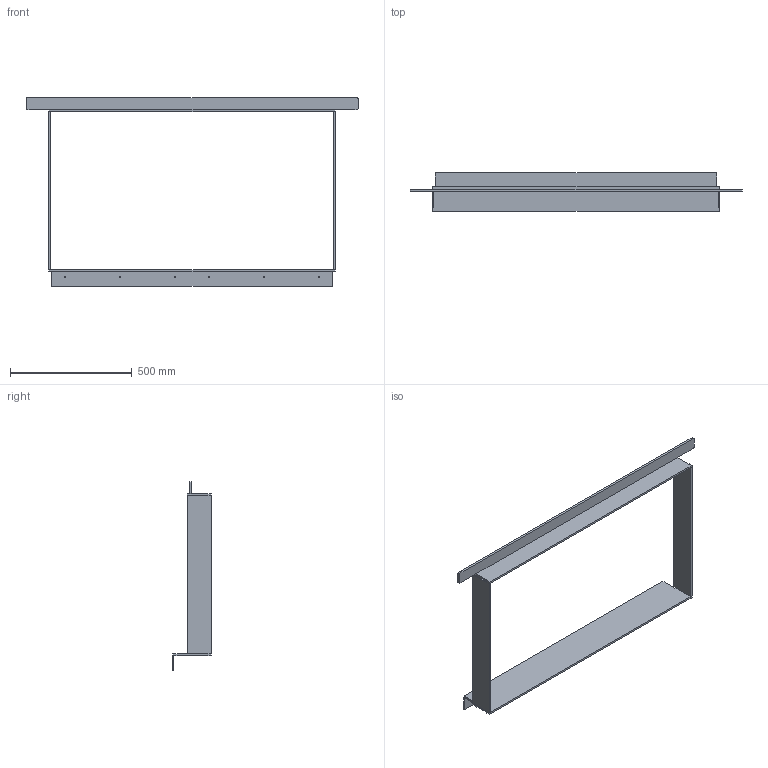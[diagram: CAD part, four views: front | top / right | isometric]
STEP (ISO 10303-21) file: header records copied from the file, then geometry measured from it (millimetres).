
FILE_DESCRIPTION(/* description */ (''),/* implementation_level */ '2;1');
FILE_NAME(/* name */ 'C:\ADSK_DM_WS\CAD_3D\03 Geraete\Violino 65x116\Zeichnungen\Violino 65x116 Einbaurahmen CAD Planung defriten 221118.stp',/* time_stamp */ '2022-11-18T12:44:01+01:00',/* author */ ('CPI'),/* organization */ (''),/* preprocessor_version */ 'ST-DEVELOPER v18.1',/* originating_system */ 'Autodesk Inventor 2022',/* authorisation */ '');
FILE_SCHEMA (('AUTOMOTIVE_DESIGN { 1 0 10303 214 3 1 1 }'));
Length unit declared in the file: millimetre
Products named in the file (1): 2022-04386
Bounding box: 1366 x 159.5 x 776 mm (x, y, z)
Volume: 4291987.8 mm3; surface area: 1209093.6 mm2
Topology: 1 solids, 1 shells, 107 faces, 291 edges, 184 vertices
Faces by surface type: plane 59, cylinder 48
Full cylindrical faces by diameter (mm): 5.2 x6
Entity records: 3557 total; most frequent: DIRECTION 603, CARTESIAN_POINT 583, ORIENTED_EDGE 582, EDGE_CURVE 291, AXIS2_PLACEMENT_3D 204, LINE 195, VECTOR 195, VERTEX_POINT 184
